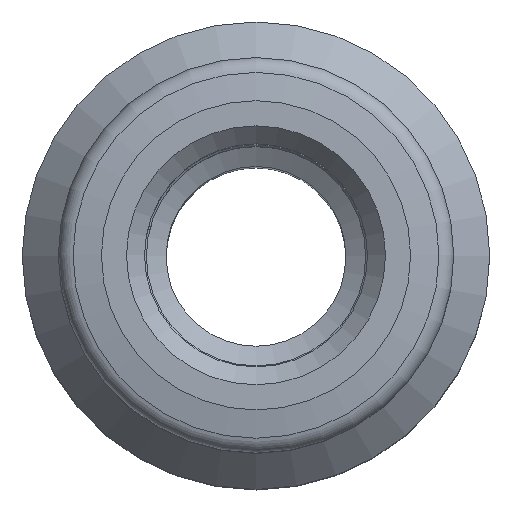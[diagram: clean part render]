
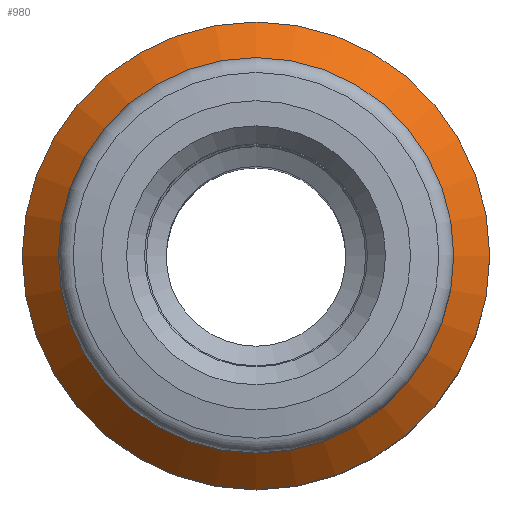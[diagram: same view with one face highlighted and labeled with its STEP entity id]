
A CAD part, top view. The second image highlights one B-rep face of the part: STEP entity #980.
In plain terms, the highlighted conical face has half-angle 45 degrees and reference radius 6.5 mm.
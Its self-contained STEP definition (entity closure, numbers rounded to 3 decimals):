
#980=ADVANCED_FACE('', (#990,#1000), #1010, .T.);
#3400=AXIS2_PLACEMENT_3D('Ax2Pl3d', #3410, #3420, #3430);
#3440=AXIS2_PLACEMENT_3D('Ax2Pl3d', #3450, #3460, #3470);
#3480=AXIS2_PLACEMENT_3D('Ax2Pl3d', #3490, #3500, #3510);
#3410=CARTESIAN_POINT('HicPkt', (116.948,0.,113.006));
#4960=CARTESIAN_POINT('', (123.448,0.,113.006));
#3450=CARTESIAN_POINT('HicPkt', (116.948,0.,113.006));
#3490=CARTESIAN_POINT('HicPkt', (116.948,0.,114.006));
#4970=CARTESIAN_POINT('', (122.448,0.,114.006));
#5330=CIRCLE('Circle', #3400, 6.5);
#5340=CIRCLE('Circle', #3480, 5.5);
#1010=CONICAL_SURFACE('Kegel', #3440, 6.5, 
0.785);
#3420=DIRECTION('Axis', (0.,0.,-1.));
#3430=DIRECTION('RefDirection', (-1.,-0.,0.));
#3460=DIRECTION('Axis', (0.,0.,-1.));
#3470=DIRECTION('RefDirection', (-1.,-0.,0.));
#3500=DIRECTION('Axis', (0.,0.,-1.));
#3510=DIRECTION('RefDirection', (-1.,-0.,0.));
#7130=EDGE_CURVE('', #7140, #7140, #5330, .T.);
#7150=EDGE_CURVE('', #7160, #7160, #5340, .T.);
#8310=EDGE_LOOP('Edge_loop', (#8320));
#8330=EDGE_LOOP('Edge_loop', (#8340));
#1000=FACE_BOUND('', #8330, .T.);
#990=FACE_OUTER_BOUND('Face_outer_bound', #8310, .T.);
#8320=ORIENTED_EDGE('', *, *, #7130, .F.);
#8340=ORIENTED_EDGE('', *, *, #7150, .T.);
#7140=VERTEX_POINT('', #4960);
#7160=VERTEX_POINT('', #4970);
